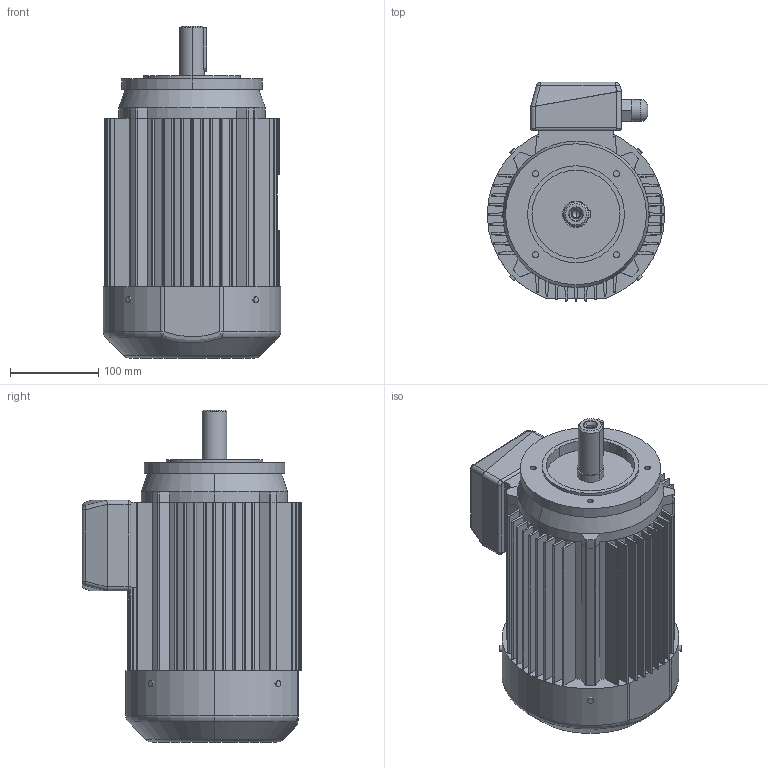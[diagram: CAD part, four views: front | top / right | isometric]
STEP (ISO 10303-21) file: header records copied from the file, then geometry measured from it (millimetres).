
FILE_DESCRIPTION (( 'STEP AP203' ), '1' );
FILE_NAME ('2SIEK100L2,6-B14-C2.STEP', '2013-01-07T13:01:14', ( 'INDUKTA' ), ( 'CANTONI MOTOR' ), 'SwSTEP 2.0', 'SolidWorks 2003064', '' );
FILE_SCHEMA (( 'CONFIG_CONTROL_DESIGN' ));
Length unit declared in the file: millimetre
Products named in the file (1): 2SIEK100L2,6-B14-C2
Bounding box: 201.5 x 249 x 377 mm (x, y, z)
Volume: 8535115.9 mm3; surface area: 596924.5 mm2
Topology: 11 solids, 11 shells, 392 faces, 1027 edges, 658 vertices
Faces by surface type: cylinder 185, plane 175, cone 14, torus 11, sphere 6, bspline 1
Entity records: 12599 total; most frequent: CARTESIAN_POINT 2644, DIRECTION 2169, ORIENTED_EDGE 2038, EDGE_CURVE 1019, AXIS2_PLACEMENT_3D 785, VERTEX_POINT 658, LINE 599, VECTOR 599
